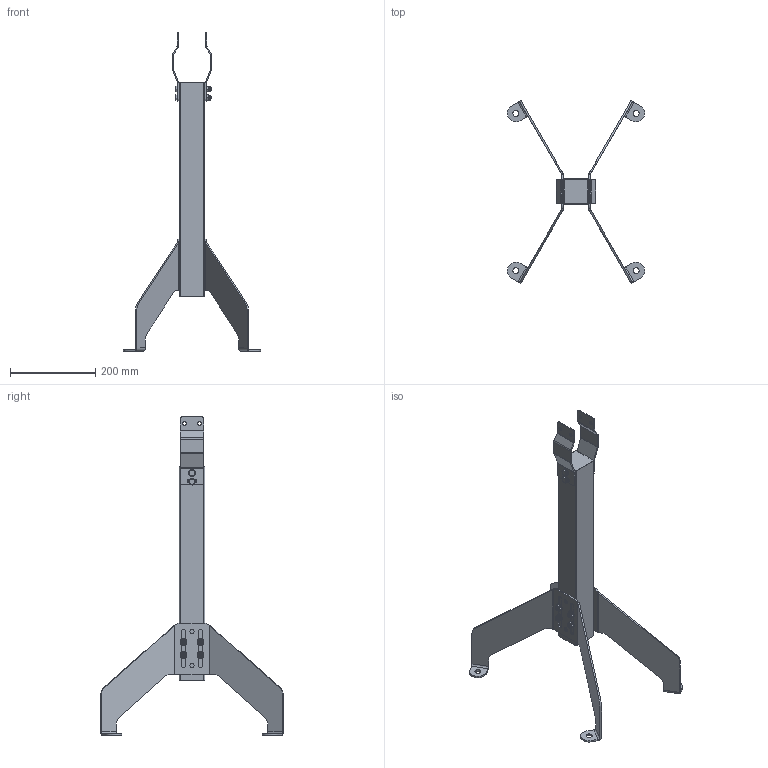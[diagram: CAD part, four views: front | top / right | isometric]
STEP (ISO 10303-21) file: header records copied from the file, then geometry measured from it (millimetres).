
FILE_DESCRIPTION(/* description */ ('LEG SUPPORT S520'),/* implementation_level */ '2;1');
FILE_NAME(/* name */ '500-1380.stp',/* time_stamp */ '2022-09-16T09:41:18+02:00',/* author */ ('PL'),/* organization */ ('CARRYLINE'),/* preprocessor_version */ 'ST-DEVELOPER v19.2',/* originating_system */ 'Autodesk Inventor 2023',/* authorisation */ '');
FILE_SCHEMA (('AUTOMOTIVE_DESIGN { 1 0 10303 214 3 1 1 }'));
Length unit declared in the file: millimetre
Products named in the file (8): 500-1380; 500-1225; 500-1015; 5501-880; 500-1155; 5530-816; 5540-8; 5552-8
Assembly tree (37 placements, depth 2):
  500-1380
    500-1225  x2
    500-1015
    5540-8  x12
    5501-880  x2
    5552-8  x10
    500-1155  x2
    5530-816  x8
Bounding box: 322.35 x 429.19 x 749 mm (x, y, z)
Volume: 732266 mm3; surface area: 522902.2 mm2
Topology: 37 solids, 37 shells, 603 faces, 1386 edges, 854 vertices
Faces by surface type: plane 351, cylinder 162, cone 86, bspline 4
Full cylindrical faces by diameter (mm): 1 x8, 6.647 x10, 8 x10, 8.4 x12, 8.5 x6, 9 x4, 10 x4, 11.6 x10, 11.63 x2, 14.2 x4, 16 x12
Entity records: 6176 total; most frequent: CARTESIAN_POINT 1195, DIRECTION 1033, ORIENTED_EDGE 896, EDGE_CURVE 448, AXIS2_PLACEMENT_3D 385, VERTEX_POINT 281, LINE 263, VECTOR 263
